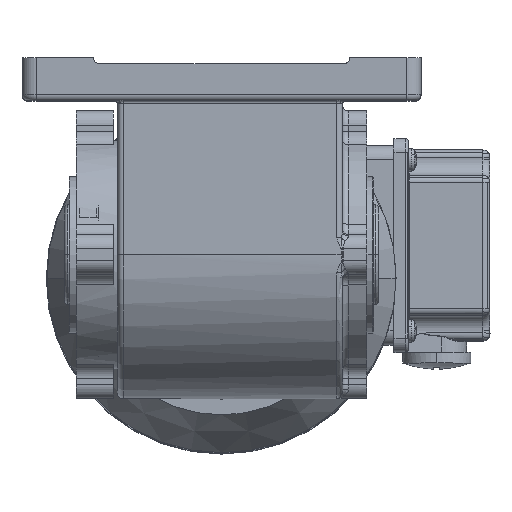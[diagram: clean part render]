
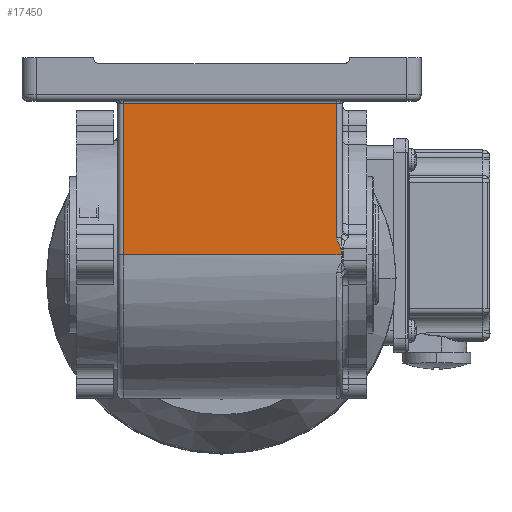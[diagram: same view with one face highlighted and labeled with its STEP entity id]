
A CAD part, top view. The second image highlights one B-rep face of the part: STEP entity #17450.
In plain terms, the highlighted planar face has unit normal (0, 0, 1).
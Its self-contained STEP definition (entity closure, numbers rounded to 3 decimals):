
#356 = AXIS2_PLACEMENT_3D ( 'NONE', #29359, #31564, #13150 ) ;
#460 = ORIENTED_EDGE ( 'NONE', *, *, #11127, .T. ) ;
#1656 = CARTESIAN_POINT ( 'NONE',  ( 41.839, 10.429, 88. ) ) ;
#1906 = VERTEX_POINT ( 'NONE', #4646 ) ;
#2400 = CARTESIAN_POINT ( 'NONE',  ( 41.928, 10., 88. ) ) ;
#3467 = FACE_OUTER_BOUND ( 'NONE', #29996, .T. ) ;
#3521 = CARTESIAN_POINT ( 'NONE',  ( 41.87, 10.347, 88. ) ) ;
#3697 = CARTESIAN_POINT ( 'NONE',  ( 40.5, 13.758, 88. ) ) ;
#3837 = VERTEX_POINT ( 'NONE', #17539 ) ;
#3973 = DIRECTION ( 'NONE',  ( -1., 0., 0. ) ) ;
#4028 = CARTESIAN_POINT ( 'NONE',  ( 40.515, 13.58, 88. ) ) ;
#4142 = CARTESIAN_POINT ( 'NONE',  ( 42.5, 8., 88. ) ) ;
#4646 = CARTESIAN_POINT ( 'NONE',  ( -34.5, 61., 88. ) ) ;
#5262 = DIRECTION ( 'NONE',  ( 0., 1., 0. ) ) ;
#5726 = CARTESIAN_POINT ( 'NONE',  ( 41.928, 10.089, 88. ) ) ;
#6132 = VECTOR ( 'NONE', #5262, 1000. ) ;
#6567 = CARTESIAN_POINT ( 'NONE',  ( 40.568, 13.231, 88. ) ) ;
#6636 = LINE ( 'NONE', #27579, #31459 ) ;
#7031 = VECTOR ( 'NONE', #12041, 1000. ) ;
#7528 = ORIENTED_EDGE ( 'NONE', *, *, #20870, .T. ) ;
#8822 = CARTESIAN_POINT ( 'NONE',  ( 40.5, 61., 88. ) ) ;
#10045 = DIRECTION ( 'NONE',  ( 0., -1., 0. ) ) ;
#11127 = EDGE_CURVE ( 'NONE', #26295, #25885, #31309, .T. ) ;
#11352 = CARTESIAN_POINT ( 'NONE',  ( 41.384, 11.287, 88. ) ) ;
#11678 = CARTESIAN_POINT ( 'NONE',  ( 41.732, 10.671, 88. ) ) ;
#12041 = DIRECTION ( 'NONE',  ( 0., 1., 0. ) ) ;
#13150 = DIRECTION ( 'NONE',  ( 0., 1., 0. ) ) ;
#13653 = PLANE ( 'NONE',  #356 ) ;
#14049 = CARTESIAN_POINT ( 'NONE',  ( 41.928, 8., 88. ) ) ;
#14189 = CARTESIAN_POINT ( 'NONE',  ( 41.915, 10.178, 88. ) ) ;
#14335 = ORIENTED_EDGE ( 'NONE', *, *, #16539, .F. ) ;
#14362 = CARTESIAN_POINT ( 'NONE',  ( 40.607, 13.059, 88. ) ) ;
#14403 = CARTESIAN_POINT ( 'NONE',  ( 40.5, 61., 88. ) ) ;
#15501 = VECTOR ( 'NONE', #3973, 1000. ) ;
#15590 = ORIENTED_EDGE ( 'NONE', *, *, #21316, .T. ) ;
#15789 = EDGE_CURVE ( 'NONE', #18572, #1906, #6636, .T. ) ;
#16539 = EDGE_CURVE ( 'NONE', #26295, #3837, #25051, .T. ) ;
#16924 = VECTOR ( 'NONE', #10045, 1000. ) ;
#17450 = ADVANCED_FACE ( 'NONE', ( #3467 ), #13653, .F. ) ;
#17539 = CARTESIAN_POINT ( 'NONE',  ( -34.5, 8., 88. ) ) ;
#18572 = VERTEX_POINT ( 'NONE', #8822 ) ;
#19128 = CARTESIAN_POINT ( 'NONE',  ( 40.753, 12.552, 88. ) ) ;
#19418 = EDGE_CURVE ( 'NONE', #1906, #3837, #27923, .T. ) ;
#20870 = EDGE_CURVE ( 'NONE', #27033, #18572, #32337, .T. ) ;
#21316 = EDGE_CURVE ( 'NONE', #25885, #27033, #27210, .T. ) ;
#21848 = CARTESIAN_POINT ( 'NONE',  ( 41.204, 11.591, 88. ) ) ;
#22098 = DIRECTION ( 'NONE',  ( -1., 0., 0. ) ) ;
#24772 = CARTESIAN_POINT ( 'NONE',  ( 41.646, 10.826, 88. ) ) ;
#25051 = LINE ( 'NONE', #4142, #15501 ) ;
#25193 = CARTESIAN_POINT ( 'NONE',  ( -34.5, 61., 88. ) ) ;
#25710 = CARTESIAN_POINT ( 'NONE',  ( 40.5, 13.936, 88. ) ) ;
#25885 = VERTEX_POINT ( 'NONE', #2400 ) ;
#26295 = VERTEX_POINT ( 'NONE', #14049 ) ;
#27033 = VERTEX_POINT ( 'NONE', #25710 ) ;
#27210 = B_SPLINE_CURVE_WITH_KNOTS ( 'NONE', 3,
 ( #29065, #5726, #14189, #3521, #1656, #11678, #24772, #11352, #21848, #32641, #19128, #14362, #6567, #4028, #3697, #30066 ),
 .UNSPECIFIED., .F., .F.,
 ( 4, 2, 2, 2, 2, 2, 2, 4 ),
 ( 0., 0., 0.001, 0.001, 0.002, 0.003, 0.004, 0.004 ),
 .UNSPECIFIED. ) ;
#27579 = CARTESIAN_POINT ( 'NONE',  ( 42.5, 61., 88. ) ) ;
#27923 = LINE ( 'NONE', #25193, #16924 ) ;
#29000 = ORIENTED_EDGE ( 'NONE', *, *, #19418, .T. ) ;
#29065 = CARTESIAN_POINT ( 'NONE',  ( 41.928, 10., 88. ) ) ;
#29359 = CARTESIAN_POINT ( 'NONE',  ( 42.5, 61., 88. ) ) ;
#29996 = EDGE_LOOP ( 'NONE', ( #15590, #7528, #32037, #29000, #14335, #460 ) ) ;
#30066 = CARTESIAN_POINT ( 'NONE',  ( 40.5, 13.936, 88. ) ) ;
#31309 = LINE ( 'NONE', #31823, #6132 ) ;
#31459 = VECTOR ( 'NONE', #22098, 1000. ) ;
#31564 = DIRECTION ( 'NONE',  ( 0., 0., -1. ) ) ;
#31823 = CARTESIAN_POINT ( 'NONE',  ( 41.928, 61., 88. ) ) ;
#32037 = ORIENTED_EDGE ( 'NONE', *, *, #15789, .T. ) ;
#32337 = LINE ( 'NONE', #14403, #7031 ) ;
#32641 = CARTESIAN_POINT ( 'NONE',  ( 40.89, 12.223, 88. ) ) ;
